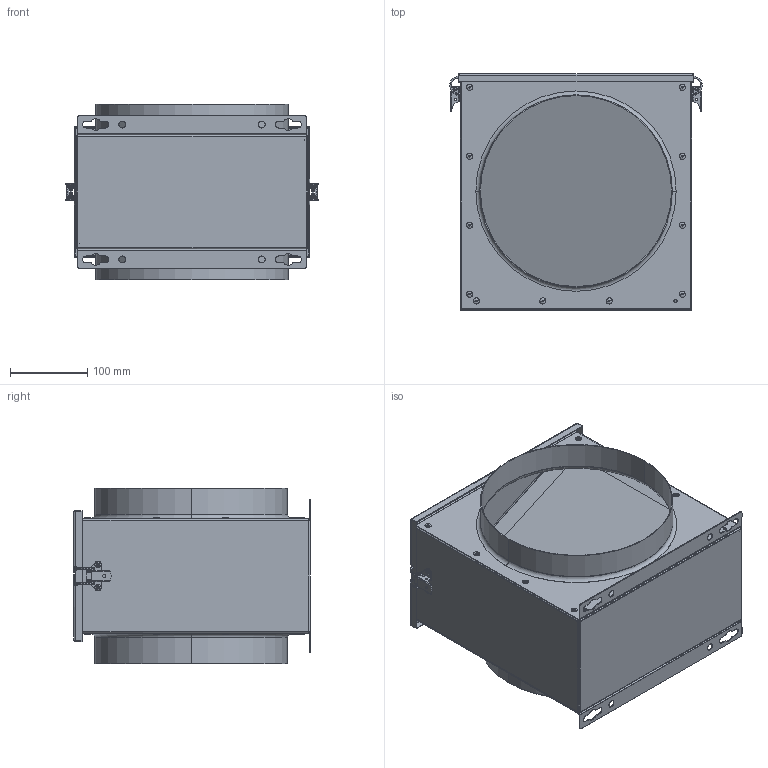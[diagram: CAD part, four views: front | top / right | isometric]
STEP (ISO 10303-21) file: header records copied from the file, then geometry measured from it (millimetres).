
FILE_DESCRIPTION (( 'STEP AP203' ), '1' );
FILE_NAME ('112833-01_FV250_step.step', '2020-08-26T10:51:46', ( '' ), ( '' ), 'SwSTEP 2.0', 'SolidWorks 2017', '' );
FILE_SCHEMA (( 'CONFIG_CONTROL_DESIGN' ));
Length unit declared in the file: millimetre
Products named in the file (1): 112833-01_FV250_step
Bounding box: 327.58 x 307 x 228 mm (x, y, z)
Surface area: 941725.7 mm2 (no closed solid volume)
Topology: 0 solids, 56 shells, 580 faces, 1735 edges, 1152 vertices
Faces by surface type: cylinder 285, plane 157, torus 84, bspline 54
Entity records: 21147 total; most frequent: CARTESIAN_POINT 5166, DIRECTION 3653, ORIENTED_EDGE 2852, EDGE_CURVE 1735, AXIS2_PLACEMENT_3D 1455, VERTEX_POINT 1152, CIRCLE 928, LINE 743
